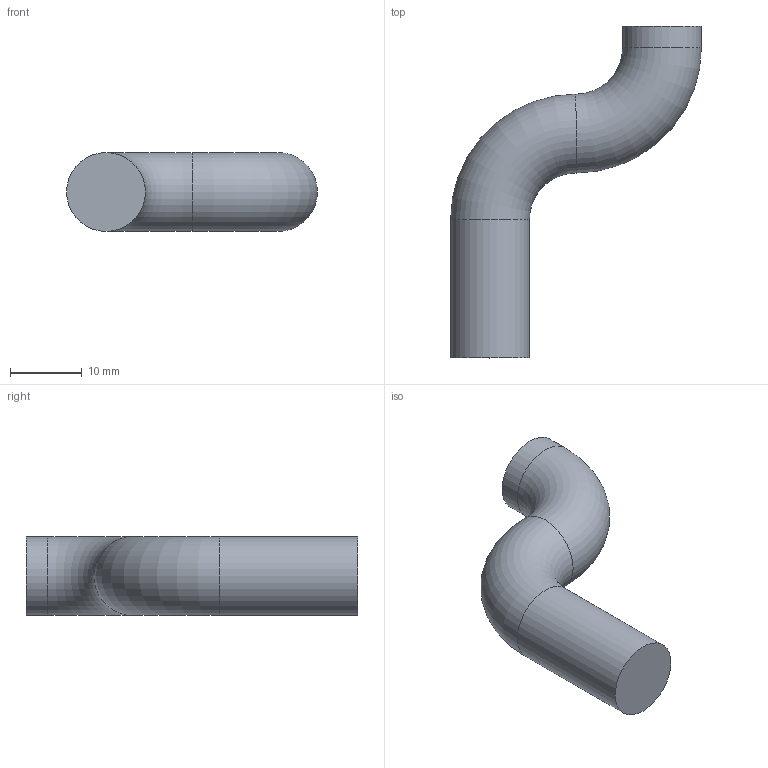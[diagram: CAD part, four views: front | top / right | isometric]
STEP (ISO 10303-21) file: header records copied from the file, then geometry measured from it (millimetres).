
FILE_DESCRIPTION(('Open CASCADE Model'),'2;1');
FILE_NAME('Open CASCADE Shape Model','2026-11-14T16:02:16',('Author'),( 'Open CASCADE'),'Open CASCADE STEP processor 7.9','Open CASCADE 7.9' ,'Unknown');
FILE_SCHEMA(('AUTOMOTIVE_DESIGN { 1 0 10303 214 1 1 1 1 }'));
Length unit declared in the file: millimetre
Products named in the file (1): Open CASCADE STEP translator 7.9 188
Bounding box: 35 x 46.3 x 11 mm (x, y, z)
Volume: 5701.9 mm3; surface area: 2263.5 mm2
Topology: 1 solids, 1 shells, 6 faces, 9 edges, 5 vertices
Faces by surface type: cylinder 2, torus 2, plane 2
Full cylindrical faces by diameter (mm): 11 x2
Entity records: 256 total; most frequent: CARTESIAN_POINT 46, DIRECTION 41, ORIENTED_EDGE 18, PCURVE 18, DEFINITIONAL_REPRESENTATION 18, AXIS2_PLACEMENT_3D 14, LINE 11, VECTOR 11
